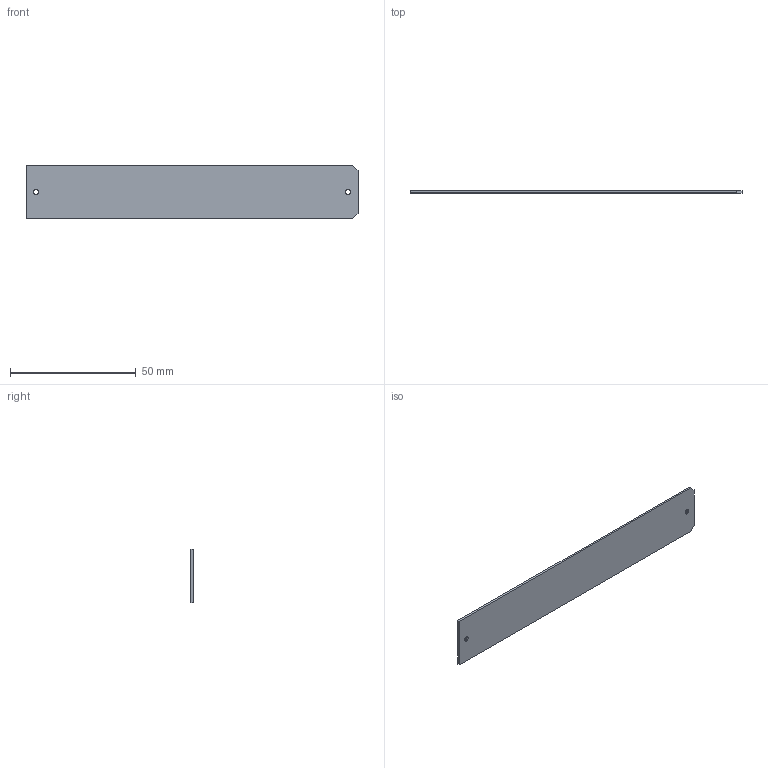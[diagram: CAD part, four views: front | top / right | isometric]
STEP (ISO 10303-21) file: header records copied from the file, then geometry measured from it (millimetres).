
FILE_DESCRIPTION (( 'STEP AP214' ), '1' );
FILE_NAME ('LBRX-00-120-3-POLARIZER-H.STEP', '2021-11-05T05:25:41', ( '' ), ( '' ), 'SwSTEP 2.0', 'SolidWorks 2021', '' );
FILE_SCHEMA (( 'AUTOMOTIVE_DESIGN' ));
Length unit declared in the file: millimetre
Products named in the file (1): LBRX-00-120-3-POLARIZER-H
Bounding box: 132 x 0.8 x 21.2 mm (x, y, z)
Volume: 2230.5 mm3; surface area: 5829.5 mm2
Topology: 1 solids, 1 shells, 12 faces, 30 edges, 20 vertices
Faces by surface type: plane 8, cylinder 4
Entity records: 404 total; most frequent: DIRECTION 64, CARTESIAN_POINT 63, ORIENTED_EDGE 60, EDGE_CURVE 30, VECTOR 22, LINE 22, AXIS2_PLACEMENT_3D 21, VERTEX_POINT 20
